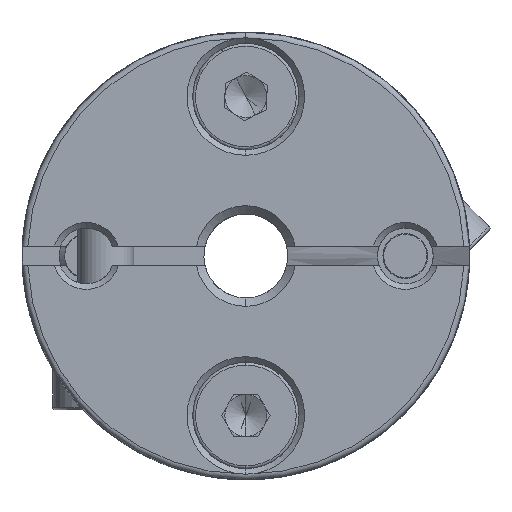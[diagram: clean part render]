
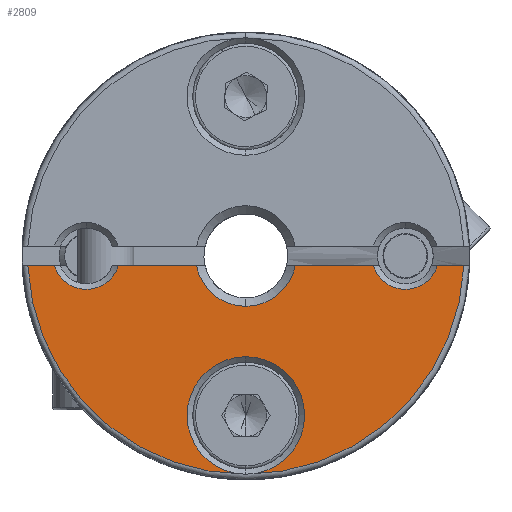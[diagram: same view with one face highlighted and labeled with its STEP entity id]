
A CAD part, front view. The second image highlights one B-rep face of the part: STEP entity #2809.
In plain terms, the highlighted planar face has unit normal (0, -1, 0).
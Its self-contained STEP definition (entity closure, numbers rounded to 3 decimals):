
#388 = CARTESIAN_POINT ( 'NONE',  ( -1.766, -9.6, -0.35 ) ) ;
#835 = EDGE_LOOP ( 'NONE', ( #1789, #1786, #1795, #1852, #1775, #1802, #1933, #1788, #1791, #1808, #1911, #1907 ) ) ;
#1353 = DIRECTION ( 'NONE',  ( -1., 0., 0. ) ) ;
#1356 = CARTESIAN_POINT ( 'NONE',  ( 0., -9.6, -0.35 ) ) ;
#1775 = ORIENTED_EDGE ( 'NONE', *, *, #6492, .T. ) ;
#1786 = ORIENTED_EDGE ( 'NONE', *, *, #17559, .T. ) ;
#1788 = ORIENTED_EDGE ( 'NONE', *, *, #6495, .T. ) ;
#1789 = ORIENTED_EDGE ( 'NONE', *, *, #6490, .T. ) ;
#1791 = ORIENTED_EDGE ( 'NONE', *, *, #17602, .T. ) ;
#1795 = ORIENTED_EDGE ( 'NONE', *, *, #6491, .T. ) ;
#1802 = ORIENTED_EDGE ( 'NONE', *, *, #6493, .T. ) ;
#1808 = ORIENTED_EDGE ( 'NONE', *, *, #6496, .T. ) ;
#1852 = ORIENTED_EDGE ( 'NONE', *, *, #6470, .T. ) ;
#1907 = ORIENTED_EDGE ( 'NONE', *, *, #6498, .T. ) ;
#1911 = ORIENTED_EDGE ( 'NONE', *, *, #6497, .T. ) ;
#1933 = ORIENTED_EDGE ( 'NONE', *, *, #6494, .T. ) ;
#2092 = DIRECTION ( 'NONE',  ( -1., 0., 0. ) ) ;
#2103 = CARTESIAN_POINT ( 'NONE',  ( 0., -9.6, -0.35 ) ) ;
#2107 = CARTESIAN_POINT ( 'NONE',  ( 0., -9.6, -0.35 ) ) ;
#2108 = DIRECTION ( 'NONE',  ( -1., 0., 0. ) ) ;
#2109 = CARTESIAN_POINT ( 'NONE',  ( 0., -9.6, 0. ) ) ;
#2110 = DIRECTION ( 'NONE',  ( 0., 1., 0. ) ) ;
#2111 = DIRECTION ( 'NONE',  ( 0., 0., -1. ) ) ;
#2112 = CARTESIAN_POINT ( 'NONE',  ( -5.7, -9.6, 0. ) ) ;
#2113 = DIRECTION ( 'NONE',  ( 0., 1., 0. ) ) ;
#2114 = DIRECTION ( 'NONE',  ( 0., 0., 1. ) ) ;
#2115 = CARTESIAN_POINT ( 'NONE',  ( 0., -9.6, 0. ) ) ;
#2116 = DIRECTION ( 'NONE',  ( 0., -1., 0. ) ) ;
#2117 = DIRECTION ( 'NONE',  ( 0., 0., 1. ) ) ;
#2118 = CARTESIAN_POINT ( 'NONE',  ( 0., -9.6, -0.35 ) ) ;
#2119 = DIRECTION ( 'NONE',  ( -1., 0., 0. ) ) ;
#2120 = CARTESIAN_POINT ( 'NONE',  ( 0., -9.6, -5.7 ) ) ;
#2121 = DIRECTION ( 'NONE',  ( 0., 1., 0. ) ) ;
#2122 = DIRECTION ( 'NONE',  ( 0., 0., 1. ) ) ;
#2123 = CARTESIAN_POINT ( 'NONE',  ( 0., -9.6, 0. ) ) ;
#2124 = DIRECTION ( 'NONE',  ( 0., -1., 0. ) ) ;
#2125 = DIRECTION ( 'NONE',  ( 0., 0., 1. ) ) ;
#2127 = CARTESIAN_POINT ( 'NONE',  ( 5.7, -9.6, 0. ) ) ;
#2128 = DIRECTION ( 'NONE',  ( 0., 1., 0. ) ) ;
#2129 = DIRECTION ( 'NONE',  ( 0., 0., 1. ) ) ;
#2809 = ADVANCED_FACE ( 'NONE', ( #22663 ), #11124, .T. ) ;
#6470 = EDGE_CURVE ( 'NONE', #10610, #11374, #20231, .T. ) ;
#6490 = EDGE_CURVE ( 'NONE', #11708, #12069, #20260, .T. ) ;
#6491 = EDGE_CURVE ( 'NONE', #12075, #10610, #20262, .T. ) ;
#6492 = EDGE_CURVE ( 'NONE', #11374, #11684, #20264, .T. ) ;
#6493 = EDGE_CURVE ( 'NONE', #11684, #11407, #20265, .T. ) ;
#6494 = EDGE_CURVE ( 'NONE', #11407, #12123, #20266, .T. ) ;
#6495 = EDGE_CURVE ( 'NONE', #12123, #12132, #20268, .T. ) ;
#6496 = EDGE_CURVE ( 'NONE', #12123, #11072, #20269, .T. ) ;
#6497 = EDGE_CURVE ( 'NONE', #11072, #11416, #20270, .T. ) ;
#6498 = EDGE_CURVE ( 'NONE', #11416, #11708, #20271, .T. ) ;
#7641 = AXIS2_PLACEMENT_3D ( 'NONE', #11133, #11112, #11109 ) ;
#8419 = AXIS2_PLACEMENT_3D ( 'NONE', #2109, #2110, #2111 ) ;
#8420 = AXIS2_PLACEMENT_3D ( 'NONE', #2112, #2113, #2114 ) ;
#8421 = AXIS2_PLACEMENT_3D ( 'NONE', #2115, #2116, #2117 ) ;
#8422 = AXIS2_PLACEMENT_3D ( 'NONE', #2120, #2121, #2122 ) ;
#8423 = AXIS2_PLACEMENT_3D ( 'NONE', #2123, #2124, #2125 ) ;
#8424 = AXIS2_PLACEMENT_3D ( 'NONE', #2127, #2128, #2129 ) ;
#9198 = AXIS2_PLACEMENT_3D ( 'NONE', #13219, #13220, #13221 ) ;
#9222 = AXIS2_PLACEMENT_3D ( 'NONE', #13375, #13377, #13379 ) ;
#10179 = CARTESIAN_POINT ( 'NONE',  ( 7.792, -9.6, -0.35 ) ) ;
#10356 = CARTESIAN_POINT ( 'NONE',  ( -4.558, -9.6, -0.35 ) ) ;
#10375 = CARTESIAN_POINT ( 'NONE',  ( -7.792, -9.6, -0.35 ) ) ;
#10380 = CARTESIAN_POINT ( 'NONE',  ( 6.842, -9.6, -0.35 ) ) ;
#10532 = CARTESIAN_POINT ( 'NONE',  ( -6.842, -9.6, -0.35 ) ) ;
#10549 = CARTESIAN_POINT ( 'NONE',  ( 4.558, -9.6, -0.35 ) ) ;
#10610 = VERTEX_POINT ( 'NONE', #388 ) ;
#10708 = CARTESIAN_POINT ( 'NONE',  ( 1.766, -9.6, -0.35 ) ) ;
#10717 = CARTESIAN_POINT ( 'NONE',  ( 0., -9.6, -1.8 ) ) ;
#10774 = CARTESIAN_POINT ( 'NONE',  ( 0., -9.6, -7.8 ) ) ;
#10787 = CARTESIAN_POINT ( 'NONE',  ( 0., -9.6, -3.6 ) ) ;
#11072 = VERTEX_POINT ( 'NONE', #10179 ) ;
#11109 = DIRECTION ( 'NONE',  ( 0., 0., 1. ) ) ;
#11112 = DIRECTION ( 'NONE',  ( 0., -1., 0. ) ) ;
#11124 = PLANE ( 'NONE',  #7641 ) ;
#11133 = CARTESIAN_POINT ( 'NONE',  ( 0., -9.6, 0. ) ) ;
#11374 = VERTEX_POINT ( 'NONE', #10356 ) ;
#11407 = VERTEX_POINT ( 'NONE', #10375 ) ;
#11416 = VERTEX_POINT ( 'NONE', #10380 ) ;
#11684 = VERTEX_POINT ( 'NONE', #10532 ) ;
#11708 = VERTEX_POINT ( 'NONE', #10549 ) ;
#12069 = VERTEX_POINT ( 'NONE', #10708 ) ;
#12075 = VERTEX_POINT ( 'NONE', #10717 ) ;
#12123 = VERTEX_POINT ( 'NONE', #10774 ) ;
#12132 = VERTEX_POINT ( 'NONE', #10787 ) ;
#13219 = CARTESIAN_POINT ( 'NONE',  ( 0., -9.6, 0. ) ) ;
#13220 = DIRECTION ( 'NONE',  ( 0., 1., 0. ) ) ;
#13221 = DIRECTION ( 'NONE',  ( 0., 0., -1. ) ) ;
#13375 = CARTESIAN_POINT ( 'NONE',  ( 0., -9.6, -5.7 ) ) ;
#13377 = DIRECTION ( 'NONE',  ( 0., 1., 0. ) ) ;
#13379 = DIRECTION ( 'NONE',  ( 0., 0., 1. ) ) ;
#17559 = EDGE_CURVE ( 'NONE', #12069, #12075, #19045, .T. ) ;
#17602 = EDGE_CURVE ( 'NONE', #12132, #12123, #19097, .T. ) ;
#19045 = CIRCLE ( 'NONE', #9198, 1.8 ) ;
#19097 = CIRCLE ( 'NONE', #9222, 2.1 ) ;
#20231 = LINE ( 'NONE', #1356, #20234 ) ;
#20234 = VECTOR ( 'NONE', #1353, 1000. ) ;
#20260 = LINE ( 'NONE', #2103, #20263 ) ;
#20262 = CIRCLE ( 'NONE', #8419, 1.8 ) ;
#20263 = VECTOR ( 'NONE', #2092, 1000. ) ;
#20264 = CIRCLE ( 'NONE', #8420, 1.195 ) ;
#20265 = LINE ( 'NONE', #2107, #20267 ) ;
#20266 = CIRCLE ( 'NONE', #8421, 7.8 ) ;
#20267 = VECTOR ( 'NONE', #2108, 1000. ) ;
#20268 = CIRCLE ( 'NONE', #8422, 2.1 ) ;
#20269 = CIRCLE ( 'NONE', #8423, 7.8 ) ;
#20270 = LINE ( 'NONE', #2118, #20272 ) ;
#20271 = CIRCLE ( 'NONE', #8424, 1.195 ) ;
#20272 = VECTOR ( 'NONE', #2119, 1000. ) ;
#22663 = FACE_OUTER_BOUND ( 'NONE', #835, .T. ) ;
